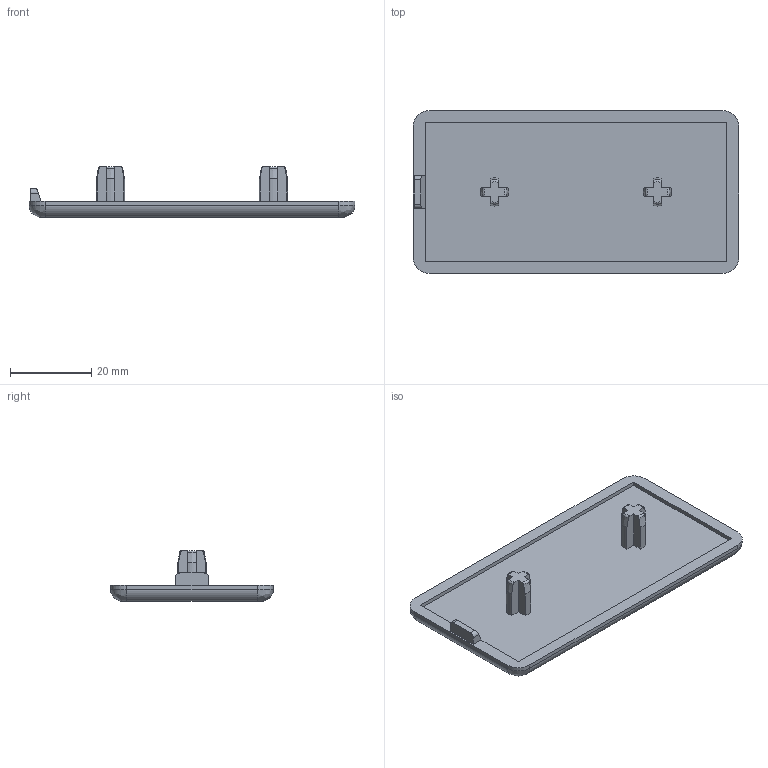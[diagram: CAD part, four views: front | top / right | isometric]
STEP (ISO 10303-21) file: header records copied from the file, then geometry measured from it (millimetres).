
FILE_DESCRIPTION(/* description */ ('www.motedis.com/part/PTS8I40x80','CAx-IF Rec.Pracs.---Representation and Presentation of Product Manufacturing Information (PMI)---4.0---2014-10-13'),/* implementation_level */ '2;1');
FILE_NAME(/* name */ 'Motedis PTS8I40x80.stp',/* time_stamp */ '2026-04-01T08:39:36+02:00',/* author */ ('Motedis'),/* organization */ ('Motedis GmbH'),/* preprocessor_version */ 'ST-DEVELOPER v20.1',/* originating_system */ 'Autodesk Inventor 2026',/* authorisation */ 'Motedis GmbH');
FILE_SCHEMA (('AP242_MANAGED_MODEL_BASED_3D_ENGINEERING_MIM_LF { 1 0 10303 442 2 1 4 }'));
Length unit declared in the file: millimetre
Products named in the file (1): Motedis PTS8I40x80
Bounding box: 80 x 40 x 12.5 mm (x, y, z)
Volume: 10265.3 mm3; surface area: 7748.5 mm2
Topology: 1 solids, 1 shells, 72 faces, 191 edges, 124 vertices
Faces by surface type: plane 34, cylinder 18, torus 8, cone 8, bspline 4
Entity records: 2415 total; most frequent: CARTESIAN_POINT 601, ORIENTED_EDGE 382, DIRECTION 361, EDGE_CURVE 191, AXIS2_PLACEMENT_3D 129, VERTEX_POINT 124, LINE 103, VECTOR 103
